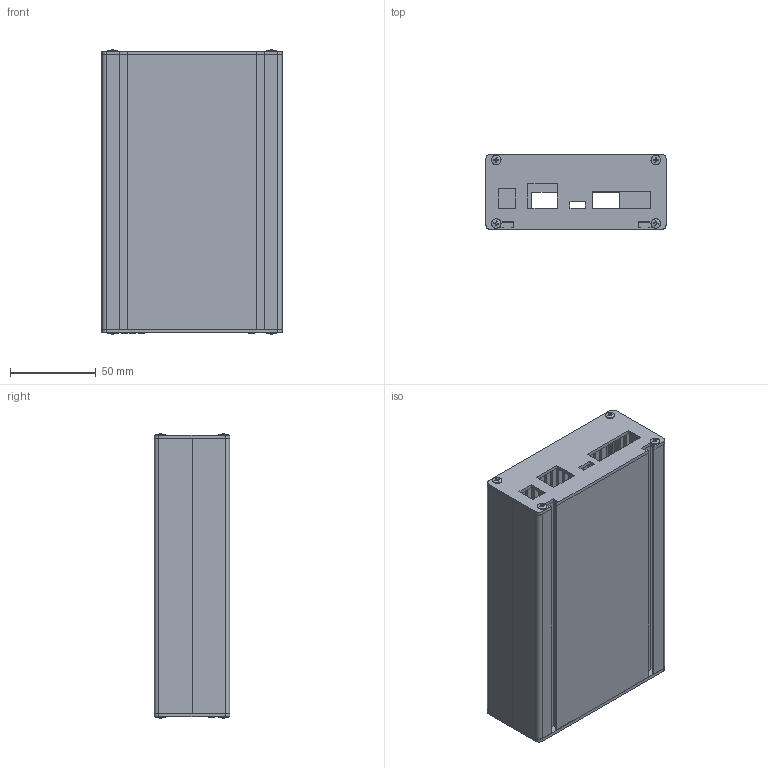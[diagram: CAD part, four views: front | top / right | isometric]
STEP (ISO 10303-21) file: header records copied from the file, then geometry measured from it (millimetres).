
FILE_DESCRIPTION (( 'STEP AP214' ), '1' );
FILE_NAME ('146-781-00.STEP', '2022-01-18T13:21:51', ( '' ), ( '' ), 'SwSTEP 2.0', 'SolidWorks 2020', '' );
FILE_SCHEMA (( 'AUTOMOTIVE_DESIGN' ));
Length unit declared in the file: millimetre
Products named in the file (8): 146-788-00; 146-715-00; 146-714-00; 146-781-00; 146-719-00; 146-786-00; 146-787-00; 146-720-00
Assembly tree (22 placements, depth 2):
  146-781-00
    146-714-00
    146-715-00
    146-719-00
    146-720-00
    146-786-00  x8
    146-787-00  x5
    146-788-00  x5
Bounding box: 105 x 44 x 165.56 mm (x, y, z)
Volume: 188049.4 mm3; surface area: 150461.1 mm2
Topology: 4 solids, 22 shells, 1136 faces, 2821 edges, 1750 vertices
Faces by surface type: plane 405, cone 301, cylinder 276, bspline 154
Full cylindrical faces by diameter (mm): 2.642 x5, 2.845 x5, 2.896 x5, 3 x133, 3.099 x5, 3.302 x5, 3.4 x8, 4.318 x5, 5.6 x8
Entity records: 14744 total; most frequent: CARTESIAN_POINT 3025, DIRECTION 2311, ORIENTED_EDGE 2290, EDGE_CURVE 1145, LINE 875, VECTOR 875, VERTEX_POINT 802, AXIS2_PLACEMENT_3D 718
